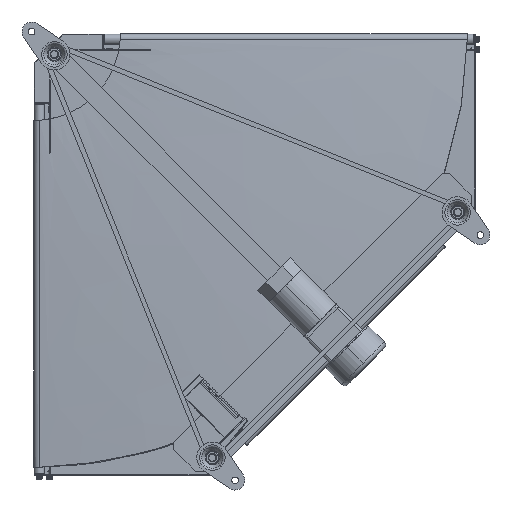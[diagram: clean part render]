
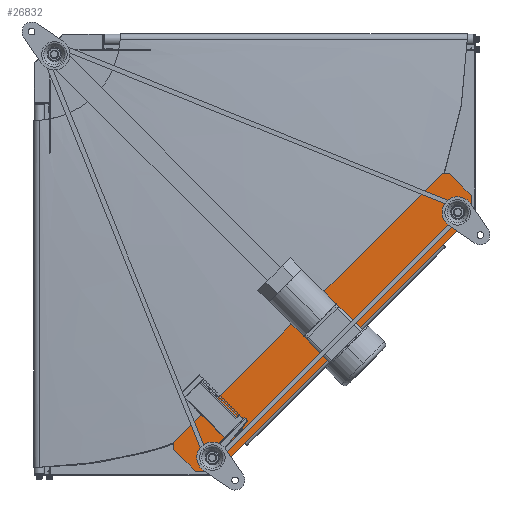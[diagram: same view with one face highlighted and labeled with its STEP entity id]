
A CAD part, front view. The second image highlights one B-rep face of the part: STEP entity #26832.
In plain terms, the highlighted planar face has unit normal (0, -1, 0).
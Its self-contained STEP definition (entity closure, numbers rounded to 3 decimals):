
#292 = CARTESIAN_POINT ( 'NONE',  ( 856.66, -167.5, -358.15 ) ) ;
#2652 = CARTESIAN_POINT ( 'NONE',  ( 315.723, -167.5, -856.66 ) ) ;
#3227 = VERTEX_POINT ( 'NONE', #37122 ) ;
#3351 = CARTESIAN_POINT ( 'NONE',  ( 856.66, -167.5, -315.723 ) ) ;
#5116 = VERTEX_POINT ( 'NONE', #14159 ) ;
#5493 = LINE ( 'NONE', #36165, #16359 ) ;
#5676 = VECTOR ( 'NONE', #32346, 1000. ) ;
#5719 = DIRECTION ( 'NONE',  ( 0., 0., -1. ) ) ;
#6353 = EDGE_CURVE ( 'NONE', #5116, #41714, #5493, .T. ) ;
#7084 = VERTEX_POINT ( 'NONE', #292 ) ;
#7309 = ORIENTED_EDGE ( 'NONE', *, *, #21125, .F. ) ;
#8955 = LINE ( 'NONE', #13996, #29958 ) ;
#9470 = VECTOR ( 'NONE', #39543, 1000. ) ;
#10868 = DIRECTION ( 'NONE',  ( 0., 0., 1. ) ) ;
#10899 = DIRECTION ( 'NONE',  ( -0.707, 0., -0.707 ) ) ;
#11502 = CARTESIAN_POINT ( 'NONE',  ( 800.091, -167.5, -273.297 ) ) ;
#11863 = DIRECTION ( 'NONE',  ( 0.707, 0., 0.707 ) ) ;
#11950 = CARTESIAN_POINT ( 'NONE',  ( 273.297, -167.5, -814.233 ) ) ;
#12059 = EDGE_CURVE ( 'NONE', #27520, #3227, #40699, .T. ) ;
#13996 = CARTESIAN_POINT ( 'NONE',  ( 800.091, -167.5, -273.297 ) ) ;
#14159 = CARTESIAN_POINT ( 'NONE',  ( 273.297, -167.5, -800.091 ) ) ;
#14264 = VECTOR ( 'NONE', #10899, 1000. ) ;
#14270 = VERTEX_POINT ( 'NONE', #21682 ) ;
#16359 = VECTOR ( 'NONE', #11863, 1000. ) ;
#17304 = CARTESIAN_POINT ( 'NONE',  ( 315.723, -167.5, -856.66 ) ) ;
#17358 = FACE_OUTER_BOUND ( 'NONE', #32304, .T. ) ;
#17994 = DIRECTION ( 'NONE',  ( -1., 0., 0. ) ) ;
#21125 = EDGE_CURVE ( 'NONE', #24250, #35902, #48297, .T. ) ;
#21682 = CARTESIAN_POINT ( 'NONE',  ( 358.15, -167.5, -856.66 ) ) ;
#22579 = ORIENTED_EDGE ( 'NONE', *, *, #24274, .F. ) ;
#23369 = EDGE_CURVE ( 'NONE', #3227, #5116, #32269, .T. ) ;
#23911 = CARTESIAN_POINT ( 'NONE',  ( 814.233, -167.5, -273.297 ) ) ;
#24038 = ORIENTED_EDGE ( 'NONE', *, *, #50872, .F. ) ;
#24250 = VERTEX_POINT ( 'NONE', #23911 ) ;
#24274 = EDGE_CURVE ( 'NONE', #35902, #7084, #52483, .T. ) ;
#24583 = LINE ( 'NONE', #17304, #27794 ) ;
#26832 = ADVANCED_FACE ( 'NONE', ( #17358 ), #50723, .T. ) ;
#27249 = CARTESIAN_POINT ( 'NONE',  ( 358.15, -167.5, -856.66 ) ) ;
#27354 = CARTESIAN_POINT ( 'NONE',  ( 814.233, -167.5, -273.297 ) ) ;
#27520 = VERTEX_POINT ( 'NONE', #2652 ) ;
#27750 = ORIENTED_EDGE ( 'NONE', *, *, #23369, .F. ) ;
#27794 = VECTOR ( 'NONE', #17994, 1000. ) ;
#29958 = VECTOR ( 'NONE', #29996, 1000. ) ;
#29996 = DIRECTION ( 'NONE',  ( 1., 0., 0. ) ) ;
#31133 = CARTESIAN_POINT ( 'NONE',  ( 273.297, -167.5, -800.091 ) ) ;
#32269 = LINE ( 'NONE', #31133, #42440 ) ;
#32304 = EDGE_LOOP ( 'NONE', ( #27750, #52670, #50596, #52150, #22579, #7309, #24038, #50068 ) ) ;
#32346 = DIRECTION ( 'NONE',  ( -0.707, 0., 0.707 ) ) ;
#32757 = VECTOR ( 'NONE', #32960, 1000. ) ;
#32809 = EDGE_CURVE ( 'NONE', #14270, #27520, #24583, .T. ) ;
#32960 = DIRECTION ( 'NONE',  ( 0., 0., -1. ) ) ;
#35902 = VERTEX_POINT ( 'NONE', #3351 ) ;
#36165 = CARTESIAN_POINT ( 'NONE',  ( 273.297, -167.5, -800.091 ) ) ;
#37122 = CARTESIAN_POINT ( 'NONE',  ( 273.297, -167.5, -814.233 ) ) ;
#38981 = CARTESIAN_POINT ( 'NONE',  ( 0., -167.5, 0. ) ) ;
#39543 = DIRECTION ( 'NONE',  ( 0.707, 0., -0.707 ) ) ;
#40699 = LINE ( 'NONE', #11950, #5676 ) ;
#41714 = VERTEX_POINT ( 'NONE', #11502 ) ;
#42440 = VECTOR ( 'NONE', #10868, 1000. ) ;
#44331 = CARTESIAN_POINT ( 'NONE',  ( 856.66, -167.5, -358.15 ) ) ;
#45263 = EDGE_CURVE ( 'NONE', #7084, #14270, #46640, .T. ) ;
#46219 = AXIS2_PLACEMENT_3D ( 'NONE', #38981, #46803, #5719 ) ;
#46640 = LINE ( 'NONE', #27249, #14264 ) ;
#46803 = DIRECTION ( 'NONE',  ( 0., -1., 0. ) ) ;
#48297 = LINE ( 'NONE', #27354, #9470 ) ;
#50068 = ORIENTED_EDGE ( 'NONE', *, *, #6353, .F. ) ;
#50596 = ORIENTED_EDGE ( 'NONE', *, *, #32809, .F. ) ;
#50723 = PLANE ( 'NONE',  #46219 ) ;
#50872 = EDGE_CURVE ( 'NONE', #41714, #24250, #8955, .T. ) ;
#52150 = ORIENTED_EDGE ( 'NONE', *, *, #45263, .F. ) ;
#52483 = LINE ( 'NONE', #44331, #32757 ) ;
#52670 = ORIENTED_EDGE ( 'NONE', *, *, #12059, .F. ) ;
